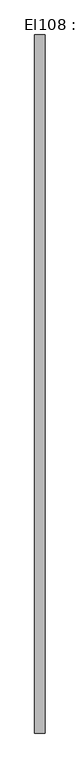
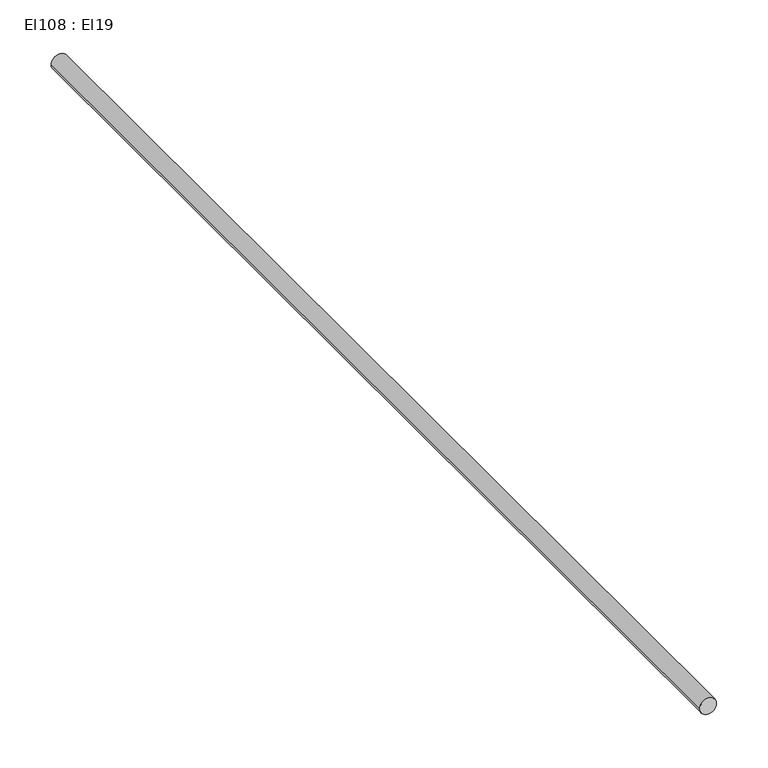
"""IFC4 building model written with IfcOpenShell, lengths in millimetres: cable carrier segment geometry, El108 : El19."""

from ifc_helpers import new_model, si_unit, point, frame, frame_2d, origin, place, context, project, spatial, circle_curve, trimmed, segment, composite_curve, outline, extrude, source, transform, mapped, element, save


def el108_el19_bead60b2(model_context):
    return source(origin(), model_context, "Body", "SweptSolid", [
        extrude(outline(composite_curve([segment(trimmed(circle_curve(frame_2d((1800.0, 2264.4746511)), 9.5), [point((1800.0, 2254.9746511))], [point((1800.0, 2273.9746511))], False, "CARTESIAN"), True, "CONTINUOUS"), segment(trimmed(circle_curve(frame_2d((1800.0, 2264.4746511)), 9.5), [point((1800.0, 2273.9746511))], [point((1800.0, 2254.9746511))], False, "CARTESIAN"), True, "CONTINUOUS")], self_intersect=False)), frame((0.0, 932.8241745, 0.0), z_axis=(0.0, 1.0, 0.0), x_axis=(0.0, 0.0, 1.0)), (0.0, 0.0, 1.0), 1267.98),
    ])


if __name__ == "__main__":
    model = new_model("IFC4")
    model_context = context("Model", 3, world=origin())
    ifc_project = project(units=[si_unit("LENGTHUNIT", "METRE", prefix="MILLI")], contexts=[model_context])
    site = spatial("IfcSite", under=ifc_project)
    building = spatial("IfcBuilding", under=site)
    placement = place(None, origin())
    el108_el19_shape = el108_el19_bead60b2(model_context)
    element("IfcCableCarrierSegment", 1, ObjectType="El108 : El19", at=placement, inside=building, context=model_context, shape_type="MappedRepresentation", body=[
        mapped(el108_el19_shape, transform((0.0, 0.0, 0.0), x_axis=(1.0, 0.0, 0.0), y_axis=(0.0, 1.0, 0.0), z_axis=(0.0, 0.0, 1.0))),
    ])
    save(model, "model.ifc")
